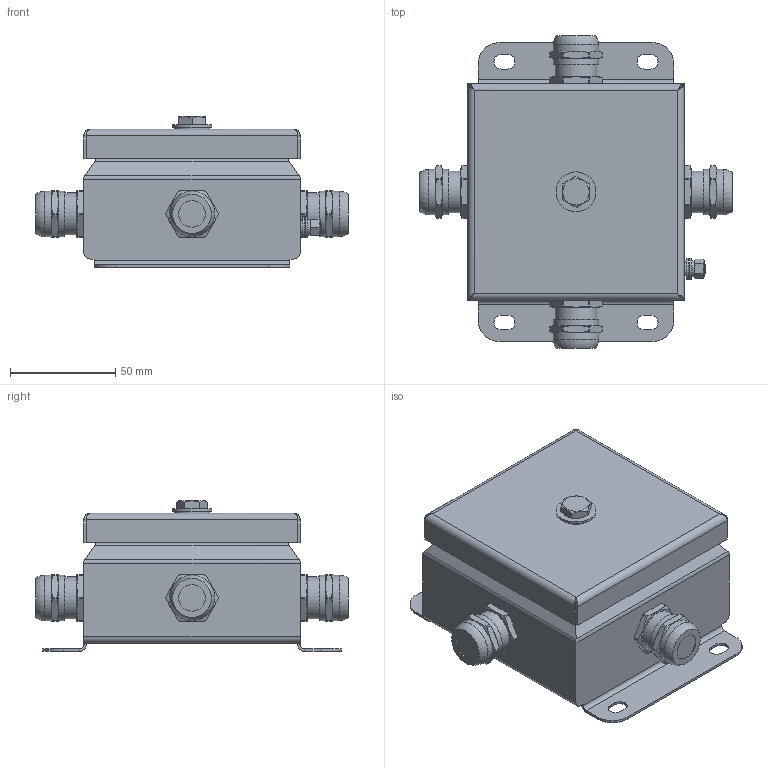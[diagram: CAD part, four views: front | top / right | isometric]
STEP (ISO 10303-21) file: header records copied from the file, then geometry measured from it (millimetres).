
FILE_DESCRIPTION(('STEP AP203'), '1');
FILE_NAME('Êîðîáêà 1010 IP66', '', ('UNSPECIFIED'), ('UNSPECIFIED'), 'ASCON STEP Converter 1.6', 'ASCON Math Kernel', '');
FILE_SCHEMA(('CONFIG_CONTROL_DESIGN'));
Length unit declared in the file: millimetre
Bounding box: 148.67 x 148.67 x 71.7 mm (x, y, z)
Volume: 666606.7 mm3; surface area: 72997.5 mm2
Topology: 1 solids, 1 shells, 355 faces, 862 edges, 539 vertices
Faces by surface type: plane 173, cylinder 125, cone 43, bspline 8, torus 6
Full cylindrical faces by diameter (mm): 3.7 x1, 5 x2, 5.5 x2, 6.5 x1, 10 x2, 12.6 x4, 17 x1, 19 x1, 20 x4, 21.6 x8
Entity records: 19021 total; most frequent: CARTESIAN_POINT 3960, ORIENTED_EDGE 1634, DIRECTION 1592, PROPERTY_DEFINITION 944, PROPERTY_DEFINITION_REPRESENTATION 944, REPRESENTATION 944, EDGE_CURVE 817, AXIS2_PLACEMENT_3D 613
